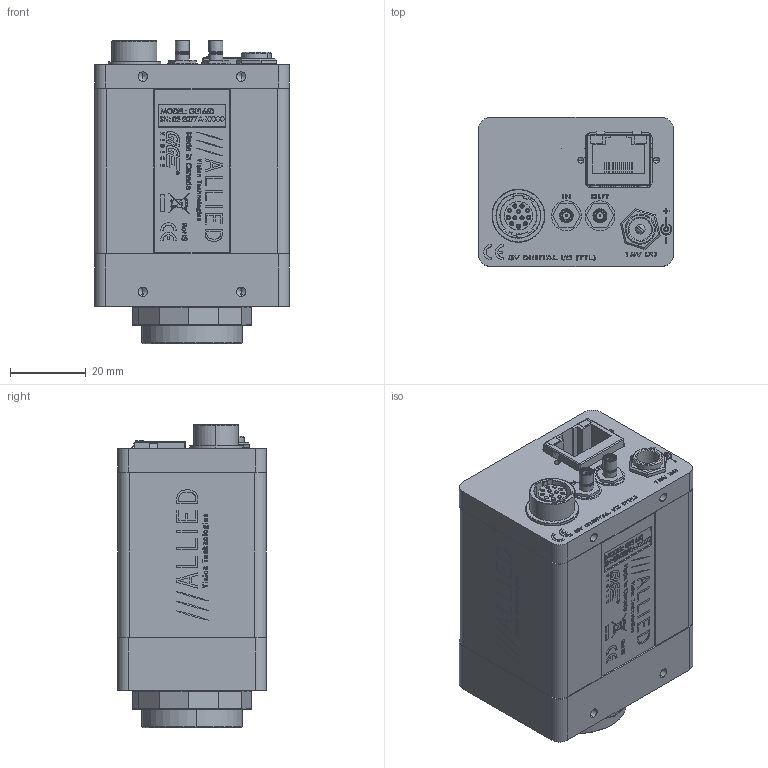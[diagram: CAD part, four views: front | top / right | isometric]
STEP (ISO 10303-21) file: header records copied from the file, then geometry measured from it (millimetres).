
FILE_DESCRIPTION (( 'STEP AP214' ), '1' );
FILE_NAME ('GE1660.STEP', '2013-07-31T21:29:29', ( '' ), ( '' ), 'SwSTEP 2.0', 'SolidWorks 2013', '' );
FILE_SCHEMA (( 'AUTOMOTIVE_DESIGN' ));
Length unit declared in the file: millimetre
Products named in the file (34): 740031B-GE SERIES LABEL; 100051B - GE BACKPLATE ASSY; GE1660; 260014-SWITCHCRAFT PC712A NUT; 140034-SWITCHCRAFT P10149 WITH WIRE; 270006-JUMPER WIRE 18MM LONG; 740085A-GE1660M LABEL PRINT; 140034-SWITCHCRAFT P10149; 110036B GE COVER EXTRUDED SHORT WITH LOGO_Finished; 260010-HIROSE HR10A-10R-12SB NUT; 100154A-GE1660M FRONT ASSY; 260010-HIROSE HR10A-10R-12SB WASHER; 110031A-B EC-CCD LOCKING RING; 110033B-C GE BACK PLATE; 110085A-GE1050 FRONT PLATE; 140002-KEYSTONE 349; 110003AC-CV CMOUNT RING; 260014-SWITCHCRAFT PC712A; 110053AA-GE KODAK 2M CCD DUST SHIELD GASKET; 140000-AMPHENOL 903-10408-1; 260010-HIROSE HR10A-10R-12SB; 220139-KODAK KAI-02050-ABA; 260009-AMPHENOL 903-406J-51R; KODAK KAI-02050 WINDOW; 100000AA-CV SMB GROUNDING ASSEMBLY; KODAK KAI-02050 BODY; 140001-AMPHENOL 903-10409-1; 140007-screw socket head cap #4-40x2; 270006-JUMPER WIRE MODIFIED; 100137A - GE CAMERA BACK ASSEMBLY - for GE KODAK 1M2M; 200031B-A GE INTERFACE PCB ASSY; 140008-washer spring lock #4; 260029 BELFUSE 0826-1C1T-23; 140015-screw pan head phillips 4-40 x 0.1875
Assembly tree (47 placements, depth 5):
  GE1660
    740031B-GE SERIES LABEL
    100137A - GE CAMERA BACK ASSEMBLY - for GE KODAK 1M2M
      200031B-A GE INTERFACE PCB ASSY
        260029 BELFUSE 0826-1C1T-23
      100051B - GE BACKPLATE ASSY
        100000AA-CV SMB GROUNDING ASSEMBLY  x2
          270006-JUMPER WIRE MODIFIED
          140001-AMPHENOL 903-10409-1
        260009-AMPHENOL 903-406J-51R  x2
        260010-HIROSE HR10A-10R-12SB
        140000-AMPHENOL 903-10408-1  x2
        260014-SWITCHCRAFT PC712A
        140002-KEYSTONE 349  x4
        110033B-C GE BACK PLATE
        260010-HIROSE HR10A-10R-12SB WASHER
        260010-HIROSE HR10A-10R-12SB NUT
        140034-SWITCHCRAFT P10149 WITH WIRE
          140034-SWITCHCRAFT P10149
          270006-JUMPER WIRE 18MM LONG
        260014-SWITCHCRAFT PC712A NUT
      140015-screw pan head phillips 4-40 x 0.1875
      140008-washer spring lock #4  x2
    140007-screw socket head cap #4-40x2  x4
    140008-washer spring lock #4  x4
    100154A-GE1660M FRONT ASSY
      220139-KODAK KAI-02050-ABA
        KODAK KAI-02050 BODY
        KODAK KAI-02050 WINDOW
      110053AA-GE KODAK 2M CCD DUST SHIELD GASKET
      110003AC-CV CMOUNT RING
      110085A-GE1050 FRONT PLATE
      110031A-B EC-CCD LOCKING RING
    110036B GE COVER EXTRUDED SHORT WITH LOGO_Finished
    740085A-GE1660M LABEL PRINT
Bounding box: 51.56 x 39.37 x 80.29 mm (x, y, z)
Volume: 48689.8 mm3; surface area: 67973.3 mm2
Topology: 72 solids, 72 shells, 3909 faces, 9799 edges, 6391 vertices
Faces by surface type: plane 2059, bspline 879, cylinder 725, cone 246
Entity records: 182739 total; most frequent: CARTESIAN_POINT 56777, ORIENTED_EDGE 18452, DIRECTION 14824, EDGE_CURVE 9226, VERTEX_POINT 6049, LINE 6000, VECTOR 6000, AXIS2_PLACEMENT_3D 4412
